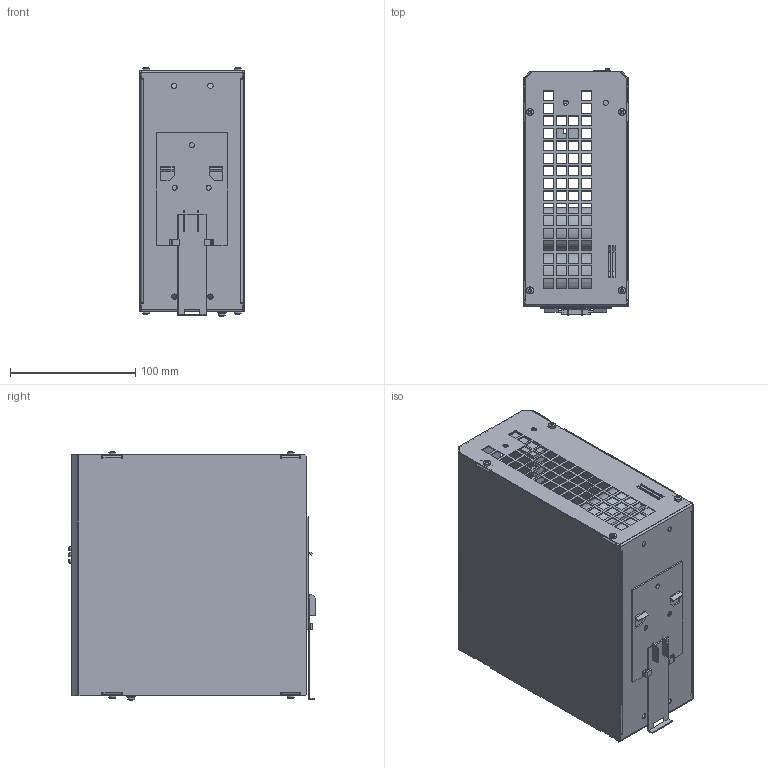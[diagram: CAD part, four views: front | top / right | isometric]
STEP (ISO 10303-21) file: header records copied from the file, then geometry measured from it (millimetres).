
FILE_DESCRIPTION((''),'2;1');
FILE_NAME('O:\Projekte_G\1034G01\Mechanik\1034G01 C-TEC 2440_Kundenmodell.stp','2013-02-05T08:49:32',('mhe'),(''),'Autodesk Inventor 2013','Autodesk Inventor 2013','');
FILE_SCHEMA(('AUTOMOTIVE_DESIGN { 1 0 10303 214 1 1 1 1 }'));
Length unit declared in the file: millimetre
Products named in the file (1): 1034G01 C-TEC 2440_Kundenmodell
Bounding box: 83.7 x 197.6 x 198.6 mm (x, y, z)
Volume: 789250.1 mm3; surface area: 415089 mm2
Topology: 1 solids, 9 shells, 2622 faces, 6932 edges, 4499 vertices
Faces by surface type: plane 2010, cylinder 458, cone 102, sphere 26, torus 23, bspline 3
Full cylindrical faces by diameter (mm): 0.457 x3, 1.25 x9, 1.6 x8, 2.2 x8, 2.694 x9, 3 x12, 3.2 x8, 3.35 x6, 3.5 x3, 4 x2, 4.1 x3, 4.2 x9, 5.452 x4, 5.6 x9, 7 x1, 35 x10
Entity records: 84184 total; most frequent: CARTESIAN_POINT 16998, ORIENTED_EDGE 13358, DIRECTION 12537, EDGE_CURVE 6679, VECTOR 5343, LINE 5343, VERTEX_POINT 4415, AXIS2_PLACEMENT_3D 3597
